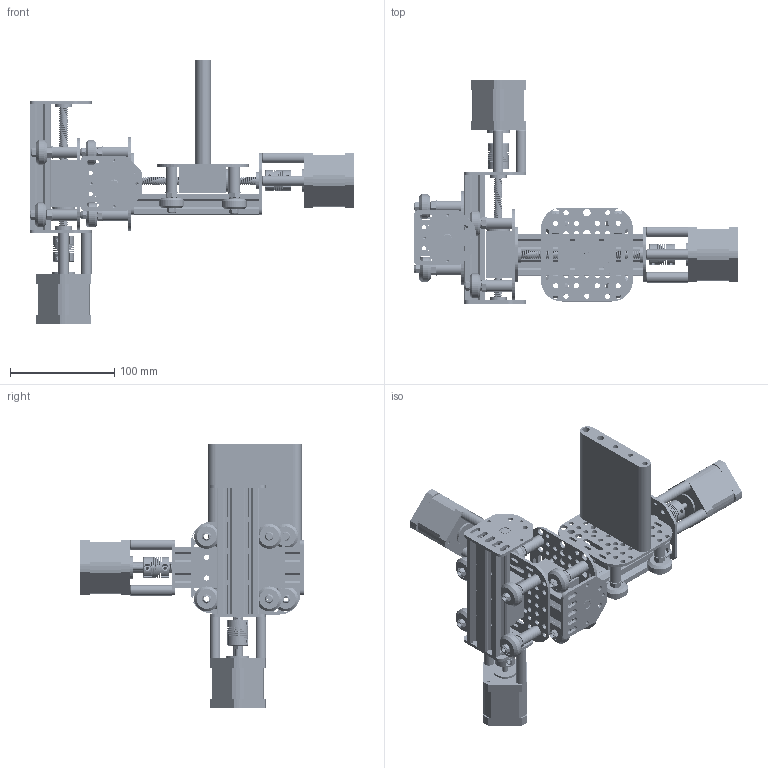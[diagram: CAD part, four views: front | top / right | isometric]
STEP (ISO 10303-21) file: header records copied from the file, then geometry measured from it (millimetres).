
FILE_DESCRIPTION (( 'STEP AP214' ), '1' );
FILE_NAME ('xyz gantry.STEP', '2026-09-08T14:22:42', ( '' ), ( '' ), 'SwSTEP 2.0', 'SolidWorks 2026', '' );
FILE_SCHEMA (( 'AUTOMOTIVE_DESIGN' ));
Length unit declared in the file: millimetre
Products named in the file (19): 40mm gantry bed; 80mm gantry plate; Threaded Rod Plate Nema 17; Eccentric Spacer; Nema 17 Stepper Motor; Aluminum Spacer 40mm; 1mm 5mm shim; x gantry; LeadScrew Nut 8mm x 2mmPitch; xyz gantry; Ball Bearing 625 2RS 5x16x5; Solid V-Wheel; Flexible Coupling 5mm x 8mm; y gantry; M5 Nylock; V-Slot 20x40x500 Linear Rail; bed; LeadScrew 8mm x 2mmPitch; Ball Bearing 8 x 16 x 5
Assembly tree (65 placements, depth 4):
  xyz gantry
    V-Slot 20x40x500 Linear Rail
    Threaded Rod Plate Nema 17  x2
    LeadScrew 8mm x 2mmPitch
    Aluminum Spacer 40mm  x3
    Nema 17 Stepper Motor
    Flexible Coupling 5mm x 8mm
    Ball Bearing 8 x 16 x 5  x2
    40mm gantry bed
      80mm gantry plate
      Eccentric Spacer  x4
      1mm 5mm shim  x4
      Solid V-Wheel  x4
      Ball Bearing 625 2RS 5x16x5  x8
      M5 Nylock  x4
      LeadScrew Nut 8mm x 2mmPitch
    x gantry
      V-Slot 20x40x500 Linear Rail
      Threaded Rod Plate Nema 17  x2
      LeadScrew 8mm x 2mmPitch
      Aluminum Spacer 40mm  x3
      Nema 17 Stepper Motor
      Flexible Coupling 5mm x 8mm
      Ball Bearing 8 x 16 x 5  x2
      40mm gantry bed
        80mm gantry plate
        Eccentric Spacer  x4
        1mm 5mm shim  x4
        Solid V-Wheel  x4
        Ball Bearing 625 2RS 5x16x5  x8
        M5 Nylock  x4
        LeadScrew Nut 8mm x 2mmPitch
    y gantry
      V-Slot 20x40x500 Linear Rail
      Threaded Rod Plate Nema 17  x2
      LeadScrew 8mm x 2mmPitch
      Aluminum Spacer 40mm  x3
      Nema 17 Stepper Motor
      Flexible Coupling 5mm x 8mm
      Ball Bearing 8 x 16 x 5  x2
      40mm gantry bed
        80mm gantry plate
        Eccentric Spacer  x4
        1mm 5mm shim  x4
        Solid V-Wheel  x4
        Ball Bearing 625 2RS 5x16x5  x8
        M5 Nylock  x4
        LeadScrew Nut 8mm x 2mmPitch
    bed
Bounding box: 311.17 x 214 x 253.94 mm (x, y, z)
Volume: 776259.4 mm3; surface area: 408455.8 mm2
Topology: 115 solids, 115 shells, 3591 faces, 9384 edges, 6176 vertices
Faces by surface type: cylinder 2063, plane 1207, cone 162, bspline 78, sphere 48, torus 33
Entity records: 42452 total; most frequent: CARTESIAN_POINT 20461, ORIENTED_EDGE 4626, DIRECTION 4346, EDGE_CURVE 2313, AXIS2_PLACEMENT_3D 1627, VERTEX_POINT 1532, VECTOR 1092, LINE 1092
